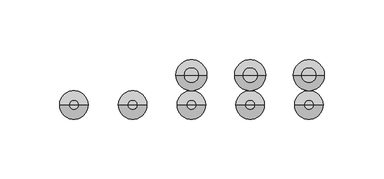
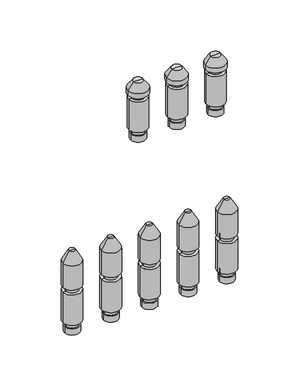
"""IFC4 building model written with IfcOpenShell, lengths in millimetres: valve geometry, PL AT_Manifold_FT-EV : 12 circuits."""

from ifc_helpers import new_model, si_unit, frame, origin, place, context, project, spatial, polyline, circle_curve, source, transform, mapped, element, save
from ifc_brep_helpers import plane_surface, cylinder_surface, revolved_surface, advanced_brep


def valve_a7423dcf(model_context):
    return source(origin(), model_context, "Body", "AdvancedBrep", [
        advanced_brep(
        [(328.1363636, 0.0, -35.11267), (347.1363636, 0.0, -35.11267), (337.6363636, 0.0, -35.11267), (328.1363636, 0.0, -27.0369646), (347.1363636, 0.0, -27.0369646), (329.6363636, 0.0, -27.0369646), (345.6363636, 0.0, -27.0369646), (329.6363636, 0.0, -20.330253), (345.6363636, 0.0, -20.330253), (325.6363636, 0.0, -20.330253), (349.6363636, 0.0, -20.330253), (325.6363636, 0.0, 20.330253), (349.6363636, 0.0, 20.330253), (329.6363636, 0.0, 20.330253), (345.6363636, 0.0, 20.330253), (329.6363636, 0.0, 27.0474786), (345.6363636, 0.0, 27.0474786), (325.6363636, 0.0, 27.0474786), (349.6363636, 0.0, 27.0474786), (325.6363636, 0.0, 59.4084325), (349.6363636, 0.0, 59.4084325), (333.6363636, 0.0, 73.264839), (341.6363636, 0.0, 73.264839), (337.6363636, 0.0, 73.264839)],
        [
            (0, 1, circle_curve(frame((337.6363636, 0.0, -35.11267), z_axis=(0.0, 0.0, -1.0), x_axis=(1.0, 0.0, 0.0)), 9.5)),
            (1, 2),
            (2, 0),
            (1, 0, circle_curve(frame((337.6363636, 0.0, -35.11267), z_axis=(0.0, 0.0, -1.0), x_axis=(1.0, 0.0, 0.0)), 9.5)),
            (3, 4, circle_curve(frame((337.6363636, 0.0, -27.0369646), z_axis=(0.0, 0.0, -1.0), x_axis=(1.0, 0.0, 0.0)), 9.5)),
            (4, 1),
            (0, 3),
            (4, 3, circle_curve(frame((337.6363636, 0.0, -27.0369646), z_axis=(0.0, 0.0, -1.0), x_axis=(1.0, 0.0, 0.0)), 9.5)),
            (5, 6, circle_curve(frame((337.6363636, 0.0, -27.0369646), z_axis=(0.0, 0.0, -1.0), x_axis=(1.0, 0.0, 0.0)), 8.0)),
            (6, 4),
            (3, 5),
            (6, 5, circle_curve(frame((337.6363636, 0.0, -27.0369646), z_axis=(0.0, 0.0, -1.0), x_axis=(1.0, 0.0, 0.0)), 8.0)),
            (7, 8, circle_curve(frame((337.6363636, 0.0, -20.330253), z_axis=(0.0, 0.0, -1.0), x_axis=(1.0, 0.0, 0.0)), 8.0)),
            (8, 6),
            (5, 7),
            (8, 7, circle_curve(frame((337.6363636, 0.0, -20.330253), z_axis=(0.0, 0.0, -1.0), x_axis=(1.0, 0.0, 0.0)), 8.0)),
            (9, 10, circle_curve(frame((337.6363636, 0.0, -20.330253), z_axis=(0.0, 0.0, -1.0), x_axis=(1.0, 0.0, 0.0)), 12.0)),
            (10, 8),
            (7, 9),
            (10, 9, circle_curve(frame((337.6363636, 0.0, -20.330253), z_axis=(0.0, 0.0, -1.0), x_axis=(1.0, 0.0, 0.0)), 12.0)),
            (11, 12, circle_curve(frame((337.6363636, 0.0, 20.330253), z_axis=(0.0, 0.0, -1.0), x_axis=(1.0, 0.0, 0.0)), 12.0)),
            (12, 10),
            (9, 11),
            (12, 11, circle_curve(frame((337.6363636, 0.0, 20.330253), z_axis=(0.0, 0.0, -1.0), x_axis=(1.0, 0.0, 0.0)), 12.0)),
            (13, 14, circle_curve(frame((337.6363636, 0.0, 20.330253), z_axis=(0.0, 0.0, -1.0), x_axis=(1.0, 0.0, 0.0)), 8.0)),
            (14, 12),
            (11, 13),
            (14, 13, circle_curve(frame((337.6363636, 0.0, 20.330253), z_axis=(0.0, 0.0, -1.0), x_axis=(1.0, 0.0, 0.0)), 8.0)),
            (15, 16, circle_curve(frame((337.6363636, 0.0, 27.0474786), z_axis=(0.0, 0.0, -1.0), x_axis=(1.0, 0.0, 0.0)), 8.0)),
            (16, 14),
            (13, 15),
            (16, 15, circle_curve(frame((337.6363636, 0.0, 27.0474786), z_axis=(0.0, 0.0, -1.0), x_axis=(1.0, 0.0, 0.0)), 8.0)),
            (17, 18, circle_curve(frame((337.6363636, 0.0, 27.0474786), z_axis=(0.0, 0.0, -1.0), x_axis=(1.0, 0.0, 0.0)), 12.0)),
            (18, 16),
            (15, 17),
            (18, 17, circle_curve(frame((337.6363636, 0.0, 27.0474786), z_axis=(0.0, 0.0, -1.0), x_axis=(1.0, 0.0, 0.0)), 12.0)),
            (19, 20, circle_curve(frame((337.6363636, 0.0, 59.4084325), z_axis=(0.0, 0.0, -1.0), x_axis=(1.0, 0.0, 0.0)), 12.0)),
            (20, 18),
            (17, 19),
            (20, 19, circle_curve(frame((337.6363636, 0.0, 59.4084325), z_axis=(0.0, 0.0, -1.0), x_axis=(1.0, 0.0, 0.0)), 12.0)),
            (21, 22, circle_curve(frame((337.6363636, 0.0, 73.264839), z_axis=(0.0, 0.0, -1.0), x_axis=(1.0, 0.0, 0.0)), 4.0)),
            (22, 20),
            (19, 21),
            (22, 21, circle_curve(frame((337.6363636, 0.0, 73.264839), z_axis=(0.0, 0.0, -1.0), x_axis=(1.0, 0.0, 0.0)), 4.0)),
            (23, 22),
            (21, 23),
        ],
        [
            plane_surface(frame((337.6363636, 0.0, -35.11267), z_axis=(0.0, 0.0, -1.0), x_axis=(1.0, 0.0, 0.0))),
            cylinder_surface(frame((337.6363636, 0.0, 58.264839), z_axis=(0.0, 0.0, 1.0), x_axis=(1.0, 0.0, 0.0)), 9.5),
            plane_surface(frame((337.6363636, 0.0, -27.0369646), z_axis=(0.0, 0.0, 1.0), x_axis=(1.0, 0.0, 0.0))),
            cylinder_surface(frame((337.6363636, 0.0, 58.264839), z_axis=(0.0, 0.0, 1.0), x_axis=(1.0, 0.0, 0.0)), 8.0),
            plane_surface(frame((337.6363636, 0.0, -20.330253), z_axis=(0.0, 0.0, -1.0), x_axis=(1.0, 0.0, 0.0))),
            cylinder_surface(frame((337.6363636, 0.0, 58.264839), z_axis=(0.0, 0.0, 1.0), x_axis=(1.0, 0.0, 0.0)), 12.0),
            plane_surface(frame((337.6363636, 0.0, 20.330253), z_axis=(0.0, 0.0, 1.0), x_axis=(1.0, 0.0, 0.0))),
            plane_surface(frame((337.6363636, 0.0, 27.0474786), z_axis=(0.0, 0.0, -1.0), x_axis=(1.0, 0.0, 0.0))),
            revolved_surface(polyline([(349.6363636, 0.0, 59.4084325), (341.6363636, 0.0, 73.264839)]), (337.6363636, 0.0, 58.264839), (0.0, 0.0, 1.0)),
            plane_surface(frame((337.6363636, 0.0, 73.264839), z_axis=(0.0, 0.0, 1.0), x_axis=(1.0, 0.0, 0.0))),
        ],
        [
            (0, [[1, 2, 3]]),
            (0, [[4, -3, -2]]),
            (1, [[5, 6, -1, 7]]),
            (1, [[8, -7, -4, -6]]),
            (2, [[9, 10, -5, 11]]),
            (2, [[12, -11, -8, -10]]),
            (3, [[13, 14, -9, 15]]),
            (3, [[16, -15, -12, -14]]),
            (4, [[17, 18, -13, 19]]),
            (4, [[20, -19, -16, -18]]),
            (5, [[21, 22, -17, 23]]),
            (5, [[24, -23, -20, -22]]),
            (6, [[25, 26, -21, 27]]),
            (6, [[28, -27, -24, -26]]),
            (3, [[29, 30, -25, 31]]),
            (3, [[32, -31, -28, -30]]),
            (7, [[33, 34, -29, 35]]),
            (7, [[36, -35, -32, -34]]),
            (5, [[37, 38, -33, 39]]),
            (5, [[40, -39, -36, -38]]),
            (8, [[41, 42, -37, 43]]),
            (8, [[44, -43, -40, -42]]),
            (9, [[45, -41, 46]]),
            (9, [[-46, -44, -45]]),
        ],
    ),
        advanced_brep(
        [(328.1363636, 25.0, 174.88733), (347.1363636, 25.0, 174.88733), (337.6363636, 25.0, 174.88733), (328.1363636, 25.0, 182.9630354), (347.1363636, 25.0, 182.9630354), (329.6363636, 25.0, 182.9630354), (345.6363636, 25.0, 182.9630354), (329.6363636, 25.0, 189.669747), (345.6363636, 25.0, 189.669747), (325.6363636, 25.0, 189.669747), (349.6363636, 25.0, 189.669747), (325.6363636, 25.0, 230.330253), (349.6363636, 25.0, 230.330253), (329.6363636, 25.0, 230.330253), (345.6363636, 25.0, 230.330253), (329.6363636, 25.0, 236.0474786), (345.6363636, 25.0, 236.0474786), (324.6363636, 25.0, 236.0474786), (350.6363636, 25.0, 236.0474786), (324.6363636, 25.0, 242.337955), (350.6363636, 25.0, 242.337955), (331.2915415, 25.0, 251.842534), (343.9811858, 25.0, 251.842534), (337.6363636, 25.0, 251.842534)],
        [
            (0, 1, circle_curve(frame((337.6363636, 25.0, 174.88733), z_axis=(0.0, 0.0, -1.0), x_axis=(1.0, 0.0, 0.0)), 9.5)),
            (1, 2),
            (2, 0),
            (1, 0, circle_curve(frame((337.6363636, 25.0, 174.88733), z_axis=(0.0, 0.0, -1.0), x_axis=(1.0, 0.0, 0.0)), 9.5)),
            (3, 4, circle_curve(frame((337.6363636, 25.0, 182.9630354), z_axis=(0.0, 0.0, -1.0), x_axis=(1.0, 0.0, 0.0)), 9.5)),
            (4, 1),
            (0, 3),
            (4, 3, circle_curve(frame((337.6363636, 25.0, 182.9630354), z_axis=(0.0, 0.0, -1.0), x_axis=(1.0, 0.0, 0.0)), 9.5)),
            (5, 6, circle_curve(frame((337.6363636, 25.0, 182.9630354), z_axis=(0.0, 0.0, -1.0), x_axis=(1.0, 0.0, 0.0)), 8.0)),
            (6, 4),
            (3, 5),
            (6, 5, circle_curve(frame((337.6363636, 25.0, 182.9630354), z_axis=(0.0, 0.0, -1.0), x_axis=(1.0, 0.0, 0.0)), 8.0)),
            (7, 8, circle_curve(frame((337.6363636, 25.0, 189.669747), z_axis=(0.0, 0.0, -1.0), x_axis=(1.0, 0.0, 0.0)), 8.0)),
            (8, 6),
            (5, 7),
            (8, 7, circle_curve(frame((337.6363636, 25.0, 189.669747), z_axis=(0.0, 0.0, -1.0), x_axis=(1.0, 0.0, 0.0)), 8.0)),
            (9, 10, circle_curve(frame((337.6363636, 25.0, 189.669747), z_axis=(0.0, 0.0, -1.0), x_axis=(1.0, 0.0, 0.0)), 12.0)),
            (10, 8),
            (7, 9),
            (10, 9, circle_curve(frame((337.6363636, 25.0, 189.669747), z_axis=(0.0, 0.0, -1.0), x_axis=(1.0, 0.0, 0.0)), 12.0)),
            (11, 12, circle_curve(frame((337.6363636, 25.0, 230.330253), z_axis=(0.0, 0.0, -1.0), x_axis=(1.0, 0.0, 0.0)), 12.0)),
            (12, 10),
            (9, 11),
            (12, 11, circle_curve(frame((337.6363636, 25.0, 230.330253), z_axis=(0.0, 0.0, -1.0), x_axis=(1.0, 0.0, 0.0)), 12.0)),
            (13, 14, circle_curve(frame((337.6363636, 25.0, 230.330253), z_axis=(0.0, 0.0, -1.0), x_axis=(1.0, 0.0, 0.0)), 8.0)),
            (14, 12),
            (11, 13),
            (14, 13, circle_curve(frame((337.6363636, 25.0, 230.330253), z_axis=(0.0, 0.0, -1.0), x_axis=(1.0, 0.0, 0.0)), 8.0)),
            (15, 16, circle_curve(frame((337.6363636, 25.0, 236.0474786), z_axis=(0.0, 0.0, -1.0), x_axis=(1.0, 0.0, 0.0)), 8.0)),
            (16, 14),
            (13, 15),
            (16, 15, circle_curve(frame((337.6363636, 25.0, 236.0474786), z_axis=(0.0, 0.0, -1.0), x_axis=(1.0, 0.0, 0.0)), 8.0)),
            (17, 18, circle_curve(frame((337.6363636, 25.0, 236.0474786), z_axis=(0.0, 0.0, -1.0), x_axis=(1.0, 0.0, 0.0)), 13.0)),
            (18, 16),
            (15, 17),
            (18, 17, circle_curve(frame((337.6363636, 25.0, 236.0474786), z_axis=(0.0, 0.0, -1.0), x_axis=(1.0, 0.0, 0.0)), 13.0)),
            (19, 20, circle_curve(frame((337.6363636, 25.0, 242.337955), z_axis=(0.0, 0.0, -1.0), x_axis=(1.0, 0.0, 0.0)), 13.0)),
            (20, 18),
            (17, 19),
            (20, 19, circle_curve(frame((337.6363636, 25.0, 242.337955), z_axis=(0.0, 0.0, -1.0), x_axis=(1.0, 0.0, 0.0)), 13.0)),
            (21, 22, circle_curve(frame((337.6363636, 25.0, 251.842534), z_axis=(0.0, 0.0, -1.0), x_axis=(1.0, 0.0, 0.0)), 6.3448221)),
            (22, 20),
            (19, 21),
            (22, 21, circle_curve(frame((337.6363636, 25.0, 251.842534), z_axis=(0.0, 0.0, -1.0), x_axis=(1.0, 0.0, 0.0)), 6.3448221)),
            (23, 22),
            (21, 23),
        ],
        [
            plane_surface(frame((337.6363636, 25.0, 174.88733), z_axis=(0.0, 0.0, -1.0), x_axis=(1.0, 0.0, 0.0))),
            cylinder_surface(frame((337.6363636, 25.0, 247.7026565), z_axis=(0.0, 0.0, 1.0), x_axis=(1.0, 0.0, 0.0)), 9.5),
            plane_surface(frame((337.6363636, 25.0, 182.9630354), z_axis=(0.0, 0.0, 1.0), x_axis=(1.0, 0.0, 0.0))),
            cylinder_surface(frame((337.6363636, 25.0, 247.7026565), z_axis=(0.0, 0.0, 1.0), x_axis=(1.0, 0.0, 0.0)), 8.0),
            plane_surface(frame((337.6363636, 25.0, 189.669747), z_axis=(0.0, 0.0, -1.0), x_axis=(1.0, 0.0, 0.0))),
            cylinder_surface(frame((337.6363636, 25.0, 247.7026565), z_axis=(0.0, 0.0, 1.0), x_axis=(1.0, 0.0, 0.0)), 12.0),
            plane_surface(frame((337.6363636, 25.0, 230.330253), z_axis=(0.0, 0.0, 1.0), x_axis=(1.0, 0.0, 0.0))),
            plane_surface(frame((337.6363636, 25.0, 236.0474786), z_axis=(0.0, 0.0, -1.0), x_axis=(1.0, 0.0, 0.0))),
            cylinder_surface(frame((337.6363636, 25.0, 247.7026565), z_axis=(0.0, 0.0, 1.0), x_axis=(1.0, 0.0, 0.0)), 13.0),
            revolved_surface(polyline([(350.6363636, 25.0, 242.337955), (343.9811858, 25.0, 251.842534)]), (337.6363636, 25.0, 247.7026565), (0.0, 0.0, 1.0)),
            plane_surface(frame((337.6363636, 25.0, 251.842534), z_axis=(0.0, 0.0, 1.0), x_axis=(1.0, 0.0, 0.0))),
        ],
        [
            (0, [[1, 2, 3]]),
            (0, [[4, -3, -2]]),
            (1, [[5, 6, -1, 7]]),
            (1, [[8, -7, -4, -6]]),
            (2, [[9, 10, -5, 11]]),
            (2, [[12, -11, -8, -10]]),
            (3, [[13, 14, -9, 15]]),
            (3, [[16, -15, -12, -14]]),
            (4, [[17, 18, -13, 19]]),
            (4, [[20, -19, -16, -18]]),
            (5, [[21, 22, -17, 23]]),
            (5, [[24, -23, -20, -22]]),
            (6, [[25, 26, -21, 27]]),
            (6, [[28, -27, -24, -26]]),
            (3, [[29, 30, -25, 31]]),
            (3, [[32, -31, -28, -30]]),
            (7, [[33, 34, -29, 35]]),
            (7, [[36, -35, -32, -34]]),
            (8, [[37, 38, -33, 39]]),
            (8, [[40, -39, -36, -38]]),
            (9, [[41, 42, -37, 43]]),
            (9, [[44, -43, -40, -42]]),
            (10, [[45, -41, 46]]),
            (10, [[-46, -44, -45]]),
        ],
    ),
        advanced_brep(
        [(278.8636364, 0.0, -35.11267), (297.8636364, 0.0, -35.11267), (288.3636364, 0.0, -35.11267), (278.8636364, 0.0, -27.0369646), (297.8636364, 0.0, -27.0369646), (280.3636364, 0.0, -27.0369646), (296.3636364, 0.0, -27.0369646), (280.3636364, 0.0, -20.330253), (296.3636364, 0.0, -20.330253), (276.3636364, 0.0, -20.330253), (300.3636364, 0.0, -20.330253), (276.3636364, 0.0, 20.330253), (300.3636364, 0.0, 20.330253), (280.3636364, 0.0, 20.330253), (296.3636364, 0.0, 20.330253), (280.3636364, 0.0, 27.0474786), (296.3636364, 0.0, 27.0474786), (276.3636364, 0.0, 27.0474786), (300.3636364, 0.0, 27.0474786), (276.3636364, 0.0, 59.4084325), (300.3636364, 0.0, 59.4084325), (284.3636364, 0.0, 73.264839), (292.3636364, 0.0, 73.264839), (288.3636364, 0.0, 73.264839)],
        [
            (0, 1, circle_curve(frame((288.3636364, 0.0, -35.11267), z_axis=(0.0, 0.0, -1.0), x_axis=(1.0, 0.0, 0.0)), 9.5)),
            (1, 2),
            (2, 0),
            (1, 0, circle_curve(frame((288.3636364, 0.0, -35.11267), z_axis=(0.0, 0.0, -1.0), x_axis=(1.0, 0.0, 0.0)), 9.5)),
            (3, 4, circle_curve(frame((288.3636364, 0.0, -27.0369646), z_axis=(0.0, 0.0, -1.0), x_axis=(1.0, 0.0, 0.0)), 9.5)),
            (4, 1),
            (0, 3),
            (4, 3, circle_curve(frame((288.3636364, 0.0, -27.0369646), z_axis=(0.0, 0.0, -1.0), x_axis=(1.0, 0.0, 0.0)), 9.5)),
            (5, 6, circle_curve(frame((288.3636364, 0.0, -27.0369646), z_axis=(0.0, 0.0, -1.0), x_axis=(1.0, 0.0, 0.0)), 8.0)),
            (6, 4),
            (3, 5),
            (6, 5, circle_curve(frame((288.3636364, 0.0, -27.0369646), z_axis=(0.0, 0.0, -1.0), x_axis=(1.0, 0.0, 0.0)), 8.0)),
            (7, 8, circle_curve(frame((288.3636364, 0.0, -20.330253), z_axis=(0.0, 0.0, -1.0), x_axis=(1.0, 0.0, 0.0)), 8.0)),
            (8, 6),
            (5, 7),
            (8, 7, circle_curve(frame((288.3636364, 0.0, -20.330253), z_axis=(0.0, 0.0, -1.0), x_axis=(1.0, 0.0, 0.0)), 8.0)),
            (9, 10, circle_curve(frame((288.3636364, 0.0, -20.330253), z_axis=(0.0, 0.0, -1.0), x_axis=(1.0, 0.0, 0.0)), 12.0)),
            (10, 8),
            (7, 9),
            (10, 9, circle_curve(frame((288.3636364, 0.0, -20.330253), z_axis=(0.0, 0.0, -1.0), x_axis=(1.0, 0.0, 0.0)), 12.0)),
            (11, 12, circle_curve(frame((288.3636364, 0.0, 20.330253), z_axis=(0.0, 0.0, -1.0), x_axis=(1.0, 0.0, 0.0)), 12.0)),
            (12, 10),
            (9, 11),
            (12, 11, circle_curve(frame((288.3636364, 0.0, 20.330253), z_axis=(0.0, 0.0, -1.0), x_axis=(1.0, 0.0, 0.0)), 12.0)),
            (13, 14, circle_curve(frame((288.3636364, 0.0, 20.330253), z_axis=(0.0, 0.0, -1.0), x_axis=(1.0, 0.0, 0.0)), 8.0)),
            (14, 12),
            (11, 13),
            (14, 13, circle_curve(frame((288.3636364, 0.0, 20.330253), z_axis=(0.0, 0.0, -1.0), x_axis=(1.0, 0.0, 0.0)), 8.0)),
            (15, 16, circle_curve(frame((288.3636364, 0.0, 27.0474786), z_axis=(0.0, 0.0, -1.0), x_axis=(1.0, 0.0, 0.0)), 8.0)),
            (16, 14),
            (13, 15),
            (16, 15, circle_curve(frame((288.3636364, 0.0, 27.0474786), z_axis=(0.0, 0.0, -1.0), x_axis=(1.0, 0.0, 0.0)), 8.0)),
            (17, 18, circle_curve(frame((288.3636364, 0.0, 27.0474786), z_axis=(0.0, 0.0, -1.0), x_axis=(1.0, 0.0, 0.0)), 12.0)),
            (18, 16),
            (15, 17),
            (18, 17, circle_curve(frame((288.3636364, 0.0, 27.0474786), z_axis=(0.0, 0.0, -1.0), x_axis=(1.0, 0.0, 0.0)), 12.0)),
            (19, 20, circle_curve(frame((288.3636364, 0.0, 59.4084325), z_axis=(0.0, 0.0, -1.0), x_axis=(1.0, 0.0, 0.0)), 12.0)),
            (20, 18),
            (17, 19),
            (20, 19, circle_curve(frame((288.3636364, 0.0, 59.4084325), z_axis=(0.0, 0.0, -1.0), x_axis=(1.0, 0.0, 0.0)), 12.0)),
            (21, 22, circle_curve(frame((288.3636364, 0.0, 73.264839), z_axis=(0.0, 0.0, -1.0), x_axis=(1.0, 0.0, 0.0)), 4.0)),
            (22, 20),
            (19, 21),
            (22, 21, circle_curve(frame((288.3636364, 0.0, 73.264839), z_axis=(0.0, 0.0, -1.0), x_axis=(1.0, 0.0, 0.0)), 4.0)),
            (23, 22),
            (21, 23),
        ],
        [
            plane_surface(frame((288.3636364, 0.0, -35.11267), z_axis=(0.0, 0.0, -1.0), x_axis=(1.0, 0.0, 0.0))),
            cylinder_surface(frame((288.3636364, 0.0, 58.264839), z_axis=(0.0, 0.0, 1.0), x_axis=(1.0, 0.0, 0.0)), 9.5),
            plane_surface(frame((288.3636364, 0.0, -27.0369646), z_axis=(0.0, 0.0, 1.0), x_axis=(1.0, 0.0, 0.0))),
            cylinder_surface(frame((288.3636364, 0.0, 58.264839), z_axis=(0.0, 0.0, 1.0), x_axis=(1.0, 0.0, 0.0)), 8.0),
            plane_surface(frame((288.3636364, 0.0, -20.330253), z_axis=(0.0, 0.0, -1.0), x_axis=(1.0, 0.0, 0.0))),
            cylinder_surface(frame((288.3636364, 0.0, 58.264839), z_axis=(0.0, 0.0, 1.0), x_axis=(1.0, 0.0, 0.0)), 12.0),
            plane_surface(frame((288.3636364, 0.0, 20.330253), z_axis=(0.0, 0.0, 1.0), x_axis=(1.0, 0.0, 0.0))),
            plane_surface(frame((288.3636364, 0.0, 27.0474786), z_axis=(0.0, 0.0, -1.0), x_axis=(1.0, 0.0, 0.0))),
            revolved_surface(polyline([(300.3636364, 0.0, 59.4084325), (292.3636364, 0.0, 73.264839)]), (288.3636364, 0.0, 58.264839), (0.0, 0.0, 1.0)),
            plane_surface(frame((288.3636364, 0.0, 73.264839), z_axis=(0.0, 0.0, 1.0), x_axis=(1.0, 0.0, 0.0))),
        ],
        [
            (0, [[1, 2, 3]]),
            (0, [[4, -3, -2]]),
            (1, [[5, 6, -1, 7]]),
            (1, [[8, -7, -4, -6]]),
            (2, [[9, 10, -5, 11]]),
            (2, [[12, -11, -8, -10]]),
            (3, [[13, 14, -9, 15]]),
            (3, [[16, -15, -12, -14]]),
            (4, [[17, 18, -13, 19]]),
            (4, [[20, -19, -16, -18]]),
            (5, [[21, 22, -17, 23]]),
            (5, [[24, -23, -20, -22]]),
            (6, [[25, 26, -21, 27]]),
            (6, [[28, -27, -24, -26]]),
            (3, [[29, 30, -25, 31]]),
            (3, [[32, -31, -28, -30]]),
            (7, [[33, 34, -29, 35]]),
            (7, [[36, -35, -32, -34]]),
            (5, [[37, 38, -33, 39]]),
            (5, [[40, -39, -36, -38]]),
            (8, [[41, 42, -37, 43]]),
            (8, [[44, -43, -40, -42]]),
            (9, [[45, -41, 46]]),
            (9, [[-46, -44, -45]]),
        ],
    ),
        advanced_brep(
        [(229.5909091, 0.0, -35.11267), (248.5909091, 0.0, -35.11267), (239.0909091, 0.0, -35.11267), (229.5909091, 0.0, -27.0369646), (248.5909091, 0.0, -27.0369646), (231.0909091, 0.0, -27.0369646), (247.0909091, 0.0, -27.0369646), (231.0909091, 0.0, -20.330253), (247.0909091, 0.0, -20.330253), (227.0909091, 0.0, -20.330253), (251.0909091, 0.0, -20.330253), (227.0909091, 0.0, 20.330253), (251.0909091, 0.0, 20.330253), (231.0909091, 0.0, 20.330253), (247.0909091, 0.0, 20.330253), (231.0909091, 0.0, 27.0474786), (247.0909091, 0.0, 27.0474786), (227.0909091, 0.0, 27.0474786), (251.0909091, 0.0, 27.0474786), (227.0909091, 0.0, 59.4084325), (251.0909091, 0.0, 59.4084325), (235.0909091, 0.0, 73.264839), (243.0909091, 0.0, 73.264839), (239.0909091, 0.0, 73.264839)],
        [
            (0, 1, circle_curve(frame((239.0909091, 0.0, -35.11267), z_axis=(0.0, 0.0, -1.0), x_axis=(1.0, 0.0, 0.0)), 9.5)),
            (1, 2),
            (2, 0),
            (1, 0, circle_curve(frame((239.0909091, 0.0, -35.11267), z_axis=(0.0, 0.0, -1.0), x_axis=(1.0, 0.0, 0.0)), 9.5)),
            (3, 4, circle_curve(frame((239.0909091, 0.0, -27.0369646), z_axis=(0.0, 0.0, -1.0), x_axis=(1.0, 0.0, 0.0)), 9.5)),
            (4, 1),
            (0, 3),
            (4, 3, circle_curve(frame((239.0909091, 0.0, -27.0369646), z_axis=(0.0, 0.0, -1.0), x_axis=(1.0, 0.0, 0.0)), 9.5)),
            (5, 6, circle_curve(frame((239.0909091, 0.0, -27.0369646), z_axis=(0.0, 0.0, -1.0), x_axis=(1.0, 0.0, 0.0)), 8.0)),
            (6, 4),
            (3, 5),
            (6, 5, circle_curve(frame((239.0909091, 0.0, -27.0369646), z_axis=(0.0, 0.0, -1.0), x_axis=(1.0, 0.0, 0.0)), 8.0)),
            (7, 8, circle_curve(frame((239.0909091, 0.0, -20.330253), z_axis=(0.0, 0.0, -1.0), x_axis=(1.0, 0.0, 0.0)), 8.0)),
            (8, 6),
            (5, 7),
            (8, 7, circle_curve(frame((239.0909091, 0.0, -20.330253), z_axis=(0.0, 0.0, -1.0), x_axis=(1.0, 0.0, 0.0)), 8.0)),
            (9, 10, circle_curve(frame((239.0909091, 0.0, -20.330253), z_axis=(0.0, 0.0, -1.0), x_axis=(1.0, 0.0, 0.0)), 12.0)),
            (10, 8),
            (7, 9),
            (10, 9, circle_curve(frame((239.0909091, 0.0, -20.330253), z_axis=(0.0, 0.0, -1.0), x_axis=(1.0, 0.0, 0.0)), 12.0)),
            (11, 12, circle_curve(frame((239.0909091, 0.0, 20.330253), z_axis=(0.0, 0.0, -1.0), x_axis=(1.0, 0.0, 0.0)), 12.0)),
            (12, 10),
            (9, 11),
            (12, 11, circle_curve(frame((239.0909091, 0.0, 20.330253), z_axis=(0.0, 0.0, -1.0), x_axis=(1.0, 0.0, 0.0)), 12.0)),
            (13, 14, circle_curve(frame((239.0909091, 0.0, 20.330253), z_axis=(0.0, 0.0, -1.0), x_axis=(1.0, 0.0, 0.0)), 8.0)),
            (14, 12),
            (11, 13),
            (14, 13, circle_curve(frame((239.0909091, 0.0, 20.330253), z_axis=(0.0, 0.0, -1.0), x_axis=(1.0, 0.0, 0.0)), 8.0)),
            (15, 16, circle_curve(frame((239.0909091, 0.0, 27.0474786), z_axis=(0.0, 0.0, -1.0), x_axis=(1.0, 0.0, 0.0)), 8.0)),
            (16, 14),
            (13, 15),
            (16, 15, circle_curve(frame((239.0909091, 0.0, 27.0474786), z_axis=(0.0, 0.0, -1.0), x_axis=(1.0, 0.0, 0.0)), 8.0)),
            (17, 18, circle_curve(frame((239.0909091, 0.0, 27.0474786), z_axis=(0.0, 0.0, -1.0), x_axis=(1.0, 0.0, 0.0)), 12.0)),
            (18, 16),
            (15, 17),
            (18, 17, circle_curve(frame((239.0909091, 0.0, 27.0474786), z_axis=(0.0, 0.0, -1.0), x_axis=(1.0, 0.0, 0.0)), 12.0)),
            (19, 20, circle_curve(frame((239.0909091, 0.0, 59.4084325), z_axis=(0.0, 0.0, -1.0), x_axis=(1.0, 0.0, 0.0)), 12.0)),
            (20, 18),
            (17, 19),
            (20, 19, circle_curve(frame((239.0909091, 0.0, 59.4084325), z_axis=(0.0, 0.0, -1.0), x_axis=(1.0, 0.0, 0.0)), 12.0)),
            (21, 22, circle_curve(frame((239.0909091, 0.0, 73.264839), z_axis=(0.0, 0.0, -1.0), x_axis=(1.0, 0.0, 0.0)), 4.0)),
            (22, 20),
            (19, 21),
            (22, 21, circle_curve(frame((239.0909091, 0.0, 73.264839), z_axis=(0.0, 0.0, -1.0), x_axis=(1.0, 0.0, 0.0)), 4.0)),
            (23, 22),
            (21, 23),
        ],
        [
            plane_surface(frame((239.0909091, 0.0, -35.11267), z_axis=(0.0, 0.0, -1.0), x_axis=(1.0, 0.0, 0.0))),
            cylinder_surface(frame((239.0909091, 0.0, 58.264839), z_axis=(0.0, 0.0, 1.0), x_axis=(1.0, 0.0, 0.0)), 9.5),
            plane_surface(frame((239.0909091, 0.0, -27.0369646), z_axis=(0.0, 0.0, 1.0), x_axis=(1.0, 0.0, 0.0))),
            cylinder_surface(frame((239.0909091, 0.0, 58.264839), z_axis=(0.0, 0.0, 1.0), x_axis=(1.0, 0.0, 0.0)), 8.0),
            plane_surface(frame((239.0909091, 0.0, -20.330253), z_axis=(0.0, 0.0, -1.0), x_axis=(1.0, 0.0, 0.0))),
            cylinder_surface(frame((239.0909091, 0.0, 58.264839), z_axis=(0.0, 0.0, 1.0), x_axis=(1.0, 0.0, 0.0)), 12.0),
            plane_surface(frame((239.0909091, 0.0, 20.330253), z_axis=(0.0, 0.0, 1.0), x_axis=(1.0, 0.0, 0.0))),
            plane_surface(frame((239.0909091, 0.0, 27.0474786), z_axis=(0.0, 0.0, -1.0), x_axis=(1.0, 0.0, 0.0))),
            revolved_surface(polyline([(251.0909091, 0.0, 59.4084325), (243.0909091, 0.0, 73.264839)]), (239.0909091, 0.0, 58.264839), (0.0, 0.0, 1.0)),
            plane_surface(frame((239.0909091, 0.0, 73.264839), z_axis=(0.0, 0.0, 1.0), x_axis=(1.0, 0.0, 0.0))),
        ],
        [
            (0, [[1, 2, 3]]),
            (0, [[4, -3, -2]]),
            (1, [[5, 6, -1, 7]]),
            (1, [[8, -7, -4, -6]]),
            (2, [[9, 10, -5, 11]]),
            (2, [[12, -11, -8, -10]]),
            (3, [[13, 14, -9, 15]]),
            (3, [[16, -15, -12, -14]]),
            (4, [[17, 18, -13, 19]]),
            (4, [[20, -19, -16, -18]]),
            (5, [[21, 22, -17, 23]]),
            (5, [[24, -23, -20, -22]]),
            (6, [[25, 26, -21, 27]]),
            (6, [[28, -27, -24, -26]]),
            (3, [[29, 30, -25, 31]]),
            (3, [[32, -31, -28, -30]]),
            (7, [[33, 34, -29, 35]]),
            (7, [[36, -35, -32, -34]]),
            (5, [[37, 38, -33, 39]]),
            (5, [[40, -39, -36, -38]]),
            (8, [[41, 42, -37, 43]]),
            (8, [[44, -43, -40, -42]]),
            (9, [[45, -41, 46]]),
            (9, [[-46, -44, -45]]),
        ],
    ),
        advanced_brep(
        [(180.3181818, 0.0, -35.11267), (199.3181818, 0.0, -35.11267), (189.8181818, 0.0, -35.11267), (180.3181818, 0.0, -27.0369646), (199.3181818, 0.0, -27.0369646), (181.8181818, 0.0, -27.0369646), (197.8181818, 0.0, -27.0369646), (181.8181818, 0.0, -20.330253), (197.8181818, 0.0, -20.330253), (177.8181818, 0.0, -20.330253), (201.8181818, 0.0, -20.330253), (177.8181818, 0.0, 20.330253), (201.8181818, 0.0, 20.330253), (181.8181818, 0.0, 20.330253), (197.8181818, 0.0, 20.330253), (181.8181818, 0.0, 27.0474786), (197.8181818, 0.0, 27.0474786), (177.8181818, 0.0, 27.0474786), (201.8181818, 0.0, 27.0474786), (177.8181818, 0.0, 59.4084325), (201.8181818, 0.0, 59.4084325), (185.8181818, 0.0, 73.264839), (193.8181818, 0.0, 73.264839), (189.8181818, 0.0, 73.264839)],
        [
            (0, 1, circle_curve(frame((189.8181818, 0.0, -35.11267), z_axis=(0.0, 0.0, -1.0), x_axis=(1.0, 0.0, 0.0)), 9.5)),
            (1, 2),
            (2, 0),
            (1, 0, circle_curve(frame((189.8181818, 0.0, -35.11267), z_axis=(0.0, 0.0, -1.0), x_axis=(1.0, 0.0, 0.0)), 9.5)),
            (3, 4, circle_curve(frame((189.8181818, 0.0, -27.0369646), z_axis=(0.0, 0.0, -1.0), x_axis=(1.0, 0.0, 0.0)), 9.5)),
            (4, 1),
            (0, 3),
            (4, 3, circle_curve(frame((189.8181818, 0.0, -27.0369646), z_axis=(0.0, 0.0, -1.0), x_axis=(1.0, 0.0, 0.0)), 9.5)),
            (5, 6, circle_curve(frame((189.8181818, 0.0, -27.0369646), z_axis=(0.0, 0.0, -1.0), x_axis=(1.0, 0.0, 0.0)), 8.0)),
            (6, 4),
            (3, 5),
            (6, 5, circle_curve(frame((189.8181818, 0.0, -27.0369646), z_axis=(0.0, 0.0, -1.0), x_axis=(1.0, 0.0, 0.0)), 8.0)),
            (7, 8, circle_curve(frame((189.8181818, 0.0, -20.330253), z_axis=(0.0, 0.0, -1.0), x_axis=(1.0, 0.0, 0.0)), 8.0)),
            (8, 6),
            (5, 7),
            (8, 7, circle_curve(frame((189.8181818, 0.0, -20.330253), z_axis=(0.0, 0.0, -1.0), x_axis=(1.0, 0.0, 0.0)), 8.0)),
            (9, 10, circle_curve(frame((189.8181818, 0.0, -20.330253), z_axis=(0.0, 0.0, -1.0), x_axis=(1.0, 0.0, 0.0)), 12.0)),
            (10, 8),
            (7, 9),
            (10, 9, circle_curve(frame((189.8181818, 0.0, -20.330253), z_axis=(0.0, 0.0, -1.0), x_axis=(1.0, 0.0, 0.0)), 12.0)),
            (11, 12, circle_curve(frame((189.8181818, 0.0, 20.330253), z_axis=(0.0, 0.0, -1.0), x_axis=(1.0, 0.0, 0.0)), 12.0)),
            (12, 10),
            (9, 11),
            (12, 11, circle_curve(frame((189.8181818, 0.0, 20.330253), z_axis=(0.0, 0.0, -1.0), x_axis=(1.0, 0.0, 0.0)), 12.0)),
            (13, 14, circle_curve(frame((189.8181818, 0.0, 20.330253), z_axis=(0.0, 0.0, -1.0), x_axis=(1.0, 0.0, 0.0)), 8.0)),
            (14, 12),
            (11, 13),
            (14, 13, circle_curve(frame((189.8181818, 0.0, 20.330253), z_axis=(0.0, 0.0, -1.0), x_axis=(1.0, 0.0, 0.0)), 8.0)),
            (15, 16, circle_curve(frame((189.8181818, 0.0, 27.0474786), z_axis=(0.0, 0.0, -1.0), x_axis=(1.0, 0.0, 0.0)), 8.0)),
            (16, 14),
            (13, 15),
            (16, 15, circle_curve(frame((189.8181818, 0.0, 27.0474786), z_axis=(0.0, 0.0, -1.0), x_axis=(1.0, 0.0, 0.0)), 8.0)),
            (17, 18, circle_curve(frame((189.8181818, 0.0, 27.0474786), z_axis=(0.0, 0.0, -1.0), x_axis=(1.0, 0.0, 0.0)), 12.0)),
            (18, 16),
            (15, 17),
            (18, 17, circle_curve(frame((189.8181818, 0.0, 27.0474786), z_axis=(0.0, 0.0, -1.0), x_axis=(1.0, 0.0, 0.0)), 12.0)),
            (19, 20, circle_curve(frame((189.8181818, 0.0, 59.4084325), z_axis=(0.0, 0.0, -1.0), x_axis=(1.0, 0.0, 0.0)), 12.0)),
            (20, 18),
            (17, 19),
            (20, 19, circle_curve(frame((189.8181818, 0.0, 59.4084325), z_axis=(0.0, 0.0, -1.0), x_axis=(1.0, 0.0, 0.0)), 12.0)),
            (21, 22, circle_curve(frame((189.8181818, 0.0, 73.264839), z_axis=(0.0, 0.0, -1.0), x_axis=(1.0, 0.0, 0.0)), 4.0)),
            (22, 20),
            (19, 21),
            (22, 21, circle_curve(frame((189.8181818, 0.0, 73.264839), z_axis=(0.0, 0.0, -1.0), x_axis=(1.0, 0.0, 0.0)), 4.0)),
            (23, 22),
            (21, 23),
        ],
        [
            plane_surface(frame((189.8181818, 0.0, -35.11267), z_axis=(0.0, 0.0, -1.0), x_axis=(1.0, 0.0, 0.0))),
            cylinder_surface(frame((189.8181818, 0.0, 58.264839), z_axis=(0.0, 0.0, 1.0), x_axis=(1.0, 0.0, 0.0)), 9.5),
            plane_surface(frame((189.8181818, 0.0, -27.0369646), z_axis=(0.0, 0.0, 1.0), x_axis=(1.0, 0.0, 0.0))),
            cylinder_surface(frame((189.8181818, 0.0, 58.264839), z_axis=(0.0, 0.0, 1.0), x_axis=(1.0, 0.0, 0.0)), 8.0),
            plane_surface(frame((189.8181818, 0.0, -20.330253), z_axis=(0.0, 0.0, -1.0), x_axis=(1.0, 0.0, 0.0))),
            cylinder_surface(frame((189.8181818, 0.0, 58.264839), z_axis=(0.0, 0.0, 1.0), x_axis=(1.0, 0.0, 0.0)), 12.0),
            plane_surface(frame((189.8181818, 0.0, 20.330253), z_axis=(0.0, 0.0, 1.0), x_axis=(1.0, 0.0, 0.0))),
            plane_surface(frame((189.8181818, 0.0, 27.0474786), z_axis=(0.0, 0.0, -1.0), x_axis=(1.0, 0.0, 0.0))),
            revolved_surface(polyline([(201.8181818, 0.0, 59.4084325), (193.8181818, 0.0, 73.264839)]), (189.8181818, 0.0, 58.264839), (0.0, 0.0, 1.0)),
            plane_surface(frame((189.8181818, 0.0, 73.264839), z_axis=(0.0, 0.0, 1.0), x_axis=(1.0, 0.0, 0.0))),
        ],
        [
            (0, [[1, 2, 3]]),
            (0, [[4, -3, -2]]),
            (1, [[5, 6, -1, 7]]),
            (1, [[8, -7, -4, -6]]),
            (2, [[9, 10, -5, 11]]),
            (2, [[12, -11, -8, -10]]),
            (3, [[13, 14, -9, 15]]),
            (3, [[16, -15, -12, -14]]),
            (4, [[17, 18, -13, 19]]),
            (4, [[20, -19, -16, -18]]),
            (5, [[21, 22, -17, 23]]),
            (5, [[24, -23, -20, -22]]),
            (6, [[25, 26, -21, 27]]),
            (6, [[28, -27, -24, -26]]),
            (3, [[29, 30, -25, 31]]),
            (3, [[32, -31, -28, -30]]),
            (7, [[33, 34, -29, 35]]),
            (7, [[36, -35, -32, -34]]),
            (5, [[37, 38, -33, 39]]),
            (5, [[40, -39, -36, -38]]),
            (8, [[41, 42, -37, 43]]),
            (8, [[44, -43, -40, -42]]),
            (9, [[45, -41, 46]]),
            (9, [[-46, -44, -45]]),
        ],
    ),
        advanced_brep(
        [(131.0454545, 0.0, -35.11267), (150.0454545, 0.0, -35.11267), (140.5454545, 0.0, -35.11267), (131.0454545, 0.0, -27.0369646), (150.0454545, 0.0, -27.0369646), (132.5454545, 0.0, -27.0369646), (148.5454545, 0.0, -27.0369646), (132.5454545, 0.0, -20.330253), (148.5454545, 0.0, -20.330253), (128.5454545, 0.0, -20.330253), (152.5454545, 0.0, -20.330253), (128.5454545, 0.0, 20.330253), (152.5454545, 0.0, 20.330253), (132.5454545, 0.0, 20.330253), (148.5454545, 0.0, 20.330253), (132.5454545, 0.0, 27.0474786), (148.5454545, 0.0, 27.0474786), (128.5454545, 0.0, 27.0474786), (152.5454545, 0.0, 27.0474786), (128.5454545, 0.0, 59.4084325), (152.5454545, 0.0, 59.4084325), (136.5454545, 0.0, 73.264839), (144.5454545, 0.0, 73.264839), (140.5454545, 0.0, 73.264839)],
        [
            (0, 1, circle_curve(frame((140.5454545, 0.0, -35.11267), z_axis=(0.0, 0.0, -1.0), x_axis=(1.0, 0.0, 0.0)), 9.5)),
            (1, 2),
            (2, 0),
            (1, 0, circle_curve(frame((140.5454545, 0.0, -35.11267), z_axis=(0.0, 0.0, -1.0), x_axis=(1.0, 0.0, 0.0)), 9.5)),
            (3, 4, circle_curve(frame((140.5454545, 0.0, -27.0369646), z_axis=(0.0, 0.0, -1.0), x_axis=(1.0, 0.0, 0.0)), 9.5)),
            (4, 1),
            (0, 3),
            (4, 3, circle_curve(frame((140.5454545, 0.0, -27.0369646), z_axis=(0.0, 0.0, -1.0), x_axis=(1.0, 0.0, 0.0)), 9.5)),
            (5, 6, circle_curve(frame((140.5454545, 0.0, -27.0369646), z_axis=(0.0, 0.0, -1.0), x_axis=(1.0, 0.0, 0.0)), 8.0)),
            (6, 4),
            (3, 5),
            (6, 5, circle_curve(frame((140.5454545, 0.0, -27.0369646), z_axis=(0.0, 0.0, -1.0), x_axis=(1.0, 0.0, 0.0)), 8.0)),
            (7, 8, circle_curve(frame((140.5454545, 0.0, -20.330253), z_axis=(0.0, 0.0, -1.0), x_axis=(1.0, 0.0, 0.0)), 8.0)),
            (8, 6),
            (5, 7),
            (8, 7, circle_curve(frame((140.5454545, 0.0, -20.330253), z_axis=(0.0, 0.0, -1.0), x_axis=(1.0, 0.0, 0.0)), 8.0)),
            (9, 10, circle_curve(frame((140.5454545, 0.0, -20.330253), z_axis=(0.0, 0.0, -1.0), x_axis=(1.0, 0.0, 0.0)), 12.0)),
            (10, 8),
            (7, 9),
            (10, 9, circle_curve(frame((140.5454545, 0.0, -20.330253), z_axis=(0.0, 0.0, -1.0), x_axis=(1.0, 0.0, 0.0)), 12.0)),
            (11, 12, circle_curve(frame((140.5454545, 0.0, 20.330253), z_axis=(0.0, 0.0, -1.0), x_axis=(1.0, 0.0, 0.0)), 12.0)),
            (12, 10),
            (9, 11),
            (12, 11, circle_curve(frame((140.5454545, 0.0, 20.330253), z_axis=(0.0, 0.0, -1.0), x_axis=(1.0, 0.0, 0.0)), 12.0)),
            (13, 14, circle_curve(frame((140.5454545, 0.0, 20.330253), z_axis=(0.0, 0.0, -1.0), x_axis=(1.0, 0.0, 0.0)), 8.0)),
            (14, 12),
            (11, 13),
            (14, 13, circle_curve(frame((140.5454545, 0.0, 20.330253), z_axis=(0.0, 0.0, -1.0), x_axis=(1.0, 0.0, 0.0)), 8.0)),
            (15, 16, circle_curve(frame((140.5454545, 0.0, 27.0474786), z_axis=(0.0, 0.0, -1.0), x_axis=(1.0, 0.0, 0.0)), 8.0)),
            (16, 14),
            (13, 15),
            (16, 15, circle_curve(frame((140.5454545, 0.0, 27.0474786), z_axis=(0.0, 0.0, -1.0), x_axis=(1.0, 0.0, 0.0)), 8.0)),
            (17, 18, circle_curve(frame((140.5454545, 0.0, 27.0474786), z_axis=(0.0, 0.0, -1.0), x_axis=(1.0, 0.0, 0.0)), 12.0)),
            (18, 16),
            (15, 17),
            (18, 17, circle_curve(frame((140.5454545, 0.0, 27.0474786), z_axis=(0.0, 0.0, -1.0), x_axis=(1.0, 0.0, 0.0)), 12.0)),
            (19, 20, circle_curve(frame((140.5454545, 0.0, 59.4084325), z_axis=(0.0, 0.0, -1.0), x_axis=(1.0, 0.0, 0.0)), 12.0)),
            (20, 18),
            (17, 19),
            (20, 19, circle_curve(frame((140.5454545, 0.0, 59.4084325), z_axis=(0.0, 0.0, -1.0), x_axis=(1.0, 0.0, 0.0)), 12.0)),
            (21, 22, circle_curve(frame((140.5454545, 0.0, 73.264839), z_axis=(0.0, 0.0, -1.0), x_axis=(1.0, 0.0, 0.0)), 4.0)),
            (22, 20),
            (19, 21),
            (22, 21, circle_curve(frame((140.5454545, 0.0, 73.264839), z_axis=(0.0, 0.0, -1.0), x_axis=(1.0, 0.0, 0.0)), 4.0)),
            (23, 22),
            (21, 23),
        ],
        [
            plane_surface(frame((140.5454545, 0.0, -35.11267), z_axis=(0.0, 0.0, -1.0), x_axis=(1.0, 0.0, 0.0))),
            cylinder_surface(frame((140.5454545, 0.0, 58.264839), z_axis=(0.0, 0.0, 1.0), x_axis=(1.0, 0.0, 0.0)), 9.5),
            plane_surface(frame((140.5454545, 0.0, -27.0369646), z_axis=(0.0, 0.0, 1.0), x_axis=(1.0, 0.0, 0.0))),
            cylinder_surface(frame((140.5454545, 0.0, 58.264839), z_axis=(0.0, 0.0, 1.0), x_axis=(1.0, 0.0, 0.0)), 8.0),
            plane_surface(frame((140.5454545, 0.0, -20.330253), z_axis=(0.0, 0.0, -1.0), x_axis=(1.0, 0.0, 0.0))),
            cylinder_surface(frame((140.5454545, 0.0, 58.264839), z_axis=(0.0, 0.0, 1.0), x_axis=(1.0, 0.0, 0.0)), 12.0),
            plane_surface(frame((140.5454545, 0.0, 20.330253), z_axis=(0.0, 0.0, 1.0), x_axis=(1.0, 0.0, 0.0))),
            plane_surface(frame((140.5454545, 0.0, 27.0474786), z_axis=(0.0, 0.0, -1.0), x_axis=(1.0, 0.0, 0.0))),
            revolved_surface(polyline([(152.5454545, 0.0, 59.4084325), (144.5454545, 0.0, 73.264839)]), (140.5454545, 0.0, 58.264839), (0.0, 0.0, 1.0)),
            plane_surface(frame((140.5454545, 0.0, 73.264839), z_axis=(0.0, 0.0, 1.0), x_axis=(1.0, 0.0, 0.0))),
        ],
        [
            (0, [[1, 2, 3]]),
            (0, [[4, -3, -2]]),
            (1, [[5, 6, -1, 7]]),
            (1, [[8, -7, -4, -6]]),
            (2, [[9, 10, -5, 11]]),
            (2, [[12, -11, -8, -10]]),
            (3, [[13, 14, -9, 15]]),
            (3, [[16, -15, -12, -14]]),
            (4, [[17, 18, -13, 19]]),
            (4, [[20, -19, -16, -18]]),
            (5, [[21, 22, -17, 23]]),
            (5, [[24, -23, -20, -22]]),
            (6, [[25, 26, -21, 27]]),
            (6, [[28, -27, -24, -26]]),
            (3, [[29, 30, -25, 31]]),
            (3, [[32, -31, -28, -30]]),
            (7, [[33, 34, -29, 35]]),
            (7, [[36, -35, -32, -34]]),
            (5, [[37, 38, -33, 39]]),
            (5, [[40, -39, -36, -38]]),
            (8, [[41, 42, -37, 43]]),
            (8, [[44, -43, -40, -42]]),
            (9, [[45, -41, 46]]),
            (9, [[-46, -44, -45]]),
        ],
    ),
        advanced_brep(
        [(278.8636364, 25.0, 174.88733), (297.8636364, 25.0, 174.88733), (288.3636364, 25.0, 174.88733), (278.8636364, 25.0, 182.9630354), (297.8636364, 25.0, 182.9630354), (280.3636364, 25.0, 182.9630354), (296.3636364, 25.0, 182.9630354), (280.3636364, 25.0, 189.669747), (296.3636364, 25.0, 189.669747), (276.3636364, 25.0, 189.669747), (300.3636364, 25.0, 189.669747), (276.3636364, 25.0, 230.330253), (300.3636364, 25.0, 230.330253), (280.3636364, 25.0, 230.330253), (296.3636364, 25.0, 230.330253), (280.3636364, 25.0, 236.0474786), (296.3636364, 25.0, 236.0474786), (275.3636364, 25.0, 236.0474786), (301.3636364, 25.0, 236.0474786), (275.3636364, 25.0, 242.337955), (301.3636364, 25.0, 242.337955), (282.0188142, 25.0, 251.842534), (294.7084585, 25.0, 251.842534), (288.3636364, 25.0, 251.842534)],
        [
            (0, 1, circle_curve(frame((288.3636364, 25.0, 174.88733), z_axis=(0.0, 0.0, -1.0), x_axis=(1.0, 0.0, 0.0)), 9.5)),
            (1, 2),
            (2, 0),
            (1, 0, circle_curve(frame((288.3636364, 25.0, 174.88733), z_axis=(0.0, 0.0, -1.0), x_axis=(1.0, 0.0, 0.0)), 9.5)),
            (3, 4, circle_curve(frame((288.3636364, 25.0, 182.9630354), z_axis=(0.0, 0.0, -1.0), x_axis=(1.0, 0.0, 0.0)), 9.5)),
            (4, 1),
            (0, 3),
            (4, 3, circle_curve(frame((288.3636364, 25.0, 182.9630354), z_axis=(0.0, 0.0, -1.0), x_axis=(1.0, 0.0, 0.0)), 9.5)),
            (5, 6, circle_curve(frame((288.3636364, 25.0, 182.9630354), z_axis=(0.0, 0.0, -1.0), x_axis=(1.0, 0.0, 0.0)), 8.0)),
            (6, 4),
            (3, 5),
            (6, 5, circle_curve(frame((288.3636364, 25.0, 182.9630354), z_axis=(0.0, 0.0, -1.0), x_axis=(1.0, 0.0, 0.0)), 8.0)),
            (7, 8, circle_curve(frame((288.3636364, 25.0, 189.669747), z_axis=(0.0, 0.0, -1.0), x_axis=(1.0, 0.0, 0.0)), 8.0)),
            (8, 6),
            (5, 7),
            (8, 7, circle_curve(frame((288.3636364, 25.0, 189.669747), z_axis=(0.0, 0.0, -1.0), x_axis=(1.0, 0.0, 0.0)), 8.0)),
            (9, 10, circle_curve(frame((288.3636364, 25.0, 189.669747), z_axis=(0.0, 0.0, -1.0), x_axis=(1.0, 0.0, 0.0)), 12.0)),
            (10, 8),
            (7, 9),
            (10, 9, circle_curve(frame((288.3636364, 25.0, 189.669747), z_axis=(0.0, 0.0, -1.0), x_axis=(1.0, 0.0, 0.0)), 12.0)),
            (11, 12, circle_curve(frame((288.3636364, 25.0, 230.330253), z_axis=(0.0, 0.0, -1.0), x_axis=(1.0, 0.0, 0.0)), 12.0)),
            (12, 10),
            (9, 11),
            (12, 11, circle_curve(frame((288.3636364, 25.0, 230.330253), z_axis=(0.0, 0.0, -1.0), x_axis=(1.0, 0.0, 0.0)), 12.0)),
            (13, 14, circle_curve(frame((288.3636364, 25.0, 230.330253), z_axis=(0.0, 0.0, -1.0), x_axis=(1.0, 0.0, 0.0)), 8.0)),
            (14, 12),
            (11, 13),
            (14, 13, circle_curve(frame((288.3636364, 25.0, 230.330253), z_axis=(0.0, 0.0, -1.0), x_axis=(1.0, 0.0, 0.0)), 8.0)),
            (15, 16, circle_curve(frame((288.3636364, 25.0, 236.0474786), z_axis=(0.0, 0.0, -1.0), x_axis=(1.0, 0.0, 0.0)), 8.0)),
            (16, 14),
            (13, 15),
            (16, 15, circle_curve(frame((288.3636364, 25.0, 236.0474786), z_axis=(0.0, 0.0, -1.0), x_axis=(1.0, 0.0, 0.0)), 8.0)),
            (17, 18, circle_curve(frame((288.3636364, 25.0, 236.0474786), z_axis=(0.0, 0.0, -1.0), x_axis=(1.0, 0.0, 0.0)), 13.0)),
            (18, 16),
            (15, 17),
            (18, 17, circle_curve(frame((288.3636364, 25.0, 236.0474786), z_axis=(0.0, 0.0, -1.0), x_axis=(1.0, 0.0, 0.0)), 13.0)),
            (19, 20, circle_curve(frame((288.3636364, 25.0, 242.337955), z_axis=(0.0, 0.0, -1.0), x_axis=(1.0, 0.0, 0.0)), 13.0)),
            (20, 18),
            (17, 19),
            (20, 19, circle_curve(frame((288.3636364, 25.0, 242.337955), z_axis=(0.0, 0.0, -1.0), x_axis=(1.0, 0.0, 0.0)), 13.0)),
            (21, 22, circle_curve(frame((288.3636364, 25.0, 251.842534), z_axis=(0.0, 0.0, -1.0), x_axis=(1.0, 0.0, 0.0)), 6.3448221)),
            (22, 20),
            (19, 21),
            (22, 21, circle_curve(frame((288.3636364, 25.0, 251.842534), z_axis=(0.0, 0.0, -1.0), x_axis=(1.0, 0.0, 0.0)), 6.3448221)),
            (23, 22),
            (21, 23),
        ],
        [
            plane_surface(frame((288.3636364, 25.0, 174.88733), z_axis=(0.0, 0.0, -1.0), x_axis=(1.0, 0.0, 0.0))),
            cylinder_surface(frame((288.3636364, 25.0, 247.7026565), z_axis=(0.0, 0.0, 1.0), x_axis=(1.0, 0.0, 0.0)), 9.5),
            plane_surface(frame((288.3636364, 25.0, 182.9630354), z_axis=(0.0, 0.0, 1.0), x_axis=(1.0, 0.0, 0.0))),
            cylinder_surface(frame((288.3636364, 25.0, 247.7026565), z_axis=(0.0, 0.0, 1.0), x_axis=(1.0, 0.0, 0.0)), 8.0),
            plane_surface(frame((288.3636364, 25.0, 189.669747), z_axis=(0.0, 0.0, -1.0), x_axis=(1.0, 0.0, 0.0))),
            cylinder_surface(frame((288.3636364, 25.0, 247.7026565), z_axis=(0.0, 0.0, 1.0), x_axis=(1.0, 0.0, 0.0)), 12.0),
            plane_surface(frame((288.3636364, 25.0, 230.330253), z_axis=(0.0, 0.0, 1.0), x_axis=(1.0, 0.0, 0.0))),
            plane_surface(frame((288.3636364, 25.0, 236.0474786), z_axis=(0.0, 0.0, -1.0), x_axis=(1.0, 0.0, 0.0))),
            cylinder_surface(frame((288.3636364, 25.0, 247.7026565), z_axis=(0.0, 0.0, 1.0), x_axis=(1.0, 0.0, 0.0)), 13.0),
            revolved_surface(polyline([(301.3636364, 25.0, 242.337955), (294.7084585, 25.0, 251.842534)]), (288.3636364, 25.0, 247.7026565), (0.0, 0.0, 1.0)),
            plane_surface(frame((288.3636364, 25.0, 251.842534), z_axis=(0.0, 0.0, 1.0), x_axis=(1.0, 0.0, 0.0))),
        ],
        [
            (0, [[1, 2, 3]]),
            (0, [[4, -3, -2]]),
            (1, [[5, 6, -1, 7]]),
            (1, [[8, -7, -4, -6]]),
            (2, [[9, 10, -5, 11]]),
            (2, [[12, -11, -8, -10]]),
            (3, [[13, 14, -9, 15]]),
            (3, [[16, -15, -12, -14]]),
            (4, [[17, 18, -13, 19]]),
            (4, [[20, -19, -16, -18]]),
            (5, [[21, 22, -17, 23]]),
            (5, [[24, -23, -20, -22]]),
            (6, [[25, 26, -21, 27]]),
            (6, [[28, -27, -24, -26]]),
            (3, [[29, 30, -25, 31]]),
            (3, [[32, -31, -28, -30]]),
            (7, [[33, 34, -29, 35]]),
            (7, [[36, -35, -32, -34]]),
            (8, [[37, 38, -33, 39]]),
            (8, [[40, -39, -36, -38]]),
            (9, [[41, 42, -37, 43]]),
            (9, [[44, -43, -40, -42]]),
            (10, [[45, -41, 46]]),
            (10, [[-46, -44, -45]]),
        ],
    ),
        advanced_brep(
        [(229.5909091, 25.0, 174.88733), (248.5909091, 25.0, 174.88733), (239.0909091, 25.0, 174.88733), (229.5909091, 25.0, 182.9630354), (248.5909091, 25.0, 182.9630354), (231.0909091, 25.0, 182.9630354), (247.0909091, 25.0, 182.9630354), (231.0909091, 25.0, 189.669747), (247.0909091, 25.0, 189.669747), (227.0909091, 25.0, 189.669747), (251.0909091, 25.0, 189.669747), (227.0909091, 25.0, 230.330253), (251.0909091, 25.0, 230.330253), (231.0909091, 25.0, 230.330253), (247.0909091, 25.0, 230.330253), (231.0909091, 25.0, 236.0474786), (247.0909091, 25.0, 236.0474786), (226.0909091, 25.0, 236.0474786), (252.0909091, 25.0, 236.0474786), (226.0909091, 25.0, 242.337955), (252.0909091, 25.0, 242.337955), (232.746087, 25.0, 251.842534), (245.4357312, 25.0, 251.842534), (239.0909091, 25.0, 251.842534)],
        [
            (0, 1, circle_curve(frame((239.0909091, 25.0, 174.88733), z_axis=(0.0, 0.0, -1.0), x_axis=(1.0, 0.0, 0.0)), 9.5)),
            (1, 2),
            (2, 0),
            (1, 0, circle_curve(frame((239.0909091, 25.0, 174.88733), z_axis=(0.0, 0.0, -1.0), x_axis=(1.0, 0.0, 0.0)), 9.5)),
            (3, 4, circle_curve(frame((239.0909091, 25.0, 182.9630354), z_axis=(0.0, 0.0, -1.0), x_axis=(1.0, 0.0, 0.0)), 9.5)),
            (4, 1),
            (0, 3),
            (4, 3, circle_curve(frame((239.0909091, 25.0, 182.9630354), z_axis=(0.0, 0.0, -1.0), x_axis=(1.0, 0.0, 0.0)), 9.5)),
            (5, 6, circle_curve(frame((239.0909091, 25.0, 182.9630354), z_axis=(0.0, 0.0, -1.0), x_axis=(1.0, 0.0, 0.0)), 8.0)),
            (6, 4),
            (3, 5),
            (6, 5, circle_curve(frame((239.0909091, 25.0, 182.9630354), z_axis=(0.0, 0.0, -1.0), x_axis=(1.0, 0.0, 0.0)), 8.0)),
            (7, 8, circle_curve(frame((239.0909091, 25.0, 189.669747), z_axis=(0.0, 0.0, -1.0), x_axis=(1.0, 0.0, 0.0)), 8.0)),
            (8, 6),
            (5, 7),
            (8, 7, circle_curve(frame((239.0909091, 25.0, 189.669747), z_axis=(0.0, 0.0, -1.0), x_axis=(1.0, 0.0, 0.0)), 8.0)),
            (9, 10, circle_curve(frame((239.0909091, 25.0, 189.669747), z_axis=(0.0, 0.0, -1.0), x_axis=(1.0, 0.0, 0.0)), 12.0)),
            (10, 8),
            (7, 9),
            (10, 9, circle_curve(frame((239.0909091, 25.0, 189.669747), z_axis=(0.0, 0.0, -1.0), x_axis=(1.0, 0.0, 0.0)), 12.0)),
            (11, 12, circle_curve(frame((239.0909091, 25.0, 230.330253), z_axis=(0.0, 0.0, -1.0), x_axis=(1.0, 0.0, 0.0)), 12.0)),
            (12, 10),
            (9, 11),
            (12, 11, circle_curve(frame((239.0909091, 25.0, 230.330253), z_axis=(0.0, 0.0, -1.0), x_axis=(1.0, 0.0, 0.0)), 12.0)),
            (13, 14, circle_curve(frame((239.0909091, 25.0, 230.330253), z_axis=(0.0, 0.0, -1.0), x_axis=(1.0, 0.0, 0.0)), 8.0)),
            (14, 12),
            (11, 13),
            (14, 13, circle_curve(frame((239.0909091, 25.0, 230.330253), z_axis=(0.0, 0.0, -1.0), x_axis=(1.0, 0.0, 0.0)), 8.0)),
            (15, 16, circle_curve(frame((239.0909091, 25.0, 236.0474786), z_axis=(0.0, 0.0, -1.0), x_axis=(1.0, 0.0, 0.0)), 8.0)),
            (16, 14),
            (13, 15),
            (16, 15, circle_curve(frame((239.0909091, 25.0, 236.0474786), z_axis=(0.0, 0.0, -1.0), x_axis=(1.0, 0.0, 0.0)), 8.0)),
            (17, 18, circle_curve(frame((239.0909091, 25.0, 236.0474786), z_axis=(0.0, 0.0, -1.0), x_axis=(1.0, 0.0, 0.0)), 13.0)),
            (18, 16),
            (15, 17),
            (18, 17, circle_curve(frame((239.0909091, 25.0, 236.0474786), z_axis=(0.0, 0.0, -1.0), x_axis=(1.0, 0.0, 0.0)), 13.0)),
            (19, 20, circle_curve(frame((239.0909091, 25.0, 242.337955), z_axis=(0.0, 0.0, -1.0), x_axis=(1.0, 0.0, 0.0)), 13.0)),
            (20, 18),
            (17, 19),
            (20, 19, circle_curve(frame((239.0909091, 25.0, 242.337955), z_axis=(0.0, 0.0, -1.0), x_axis=(1.0, 0.0, 0.0)), 13.0)),
            (21, 22, circle_curve(frame((239.0909091, 25.0, 251.842534), z_axis=(0.0, 0.0, -1.0), x_axis=(1.0, 0.0, 0.0)), 6.3448221)),
            (22, 20),
            (19, 21),
            (22, 21, circle_curve(frame((239.0909091, 25.0, 251.842534), z_axis=(0.0, 0.0, -1.0), x_axis=(1.0, 0.0, 0.0)), 6.3448221)),
            (23, 22),
            (21, 23),
        ],
        [
            plane_surface(frame((239.0909091, 25.0, 174.88733), z_axis=(0.0, 0.0, -1.0), x_axis=(1.0, 0.0, 0.0))),
            cylinder_surface(frame((239.0909091, 25.0, 247.7026565), z_axis=(0.0, 0.0, 1.0), x_axis=(1.0, 0.0, 0.0)), 9.5),
            plane_surface(frame((239.0909091, 25.0, 182.9630354), z_axis=(0.0, 0.0, 1.0), x_axis=(1.0, 0.0, 0.0))),
            cylinder_surface(frame((239.0909091, 25.0, 247.7026565), z_axis=(0.0, 0.0, 1.0), x_axis=(1.0, 0.0, 0.0)), 8.0),
            plane_surface(frame((239.0909091, 25.0, 189.669747), z_axis=(0.0, 0.0, -1.0), x_axis=(1.0, 0.0, 0.0))),
            cylinder_surface(frame((239.0909091, 25.0, 247.7026565), z_axis=(0.0, 0.0, 1.0), x_axis=(1.0, 0.0, 0.0)), 12.0),
            plane_surface(frame((239.0909091, 25.0, 230.330253), z_axis=(0.0, 0.0, 1.0), x_axis=(1.0, 0.0, 0.0))),
            plane_surface(frame((239.0909091, 25.0, 236.0474786), z_axis=(0.0, 0.0, -1.0), x_axis=(1.0, 0.0, 0.0))),
            cylinder_surface(frame((239.0909091, 25.0, 247.7026565), z_axis=(0.0, 0.0, 1.0), x_axis=(1.0, 0.0, 0.0)), 13.0),
            revolved_surface(polyline([(252.0909091, 25.0, 242.337955), (245.4357312, 25.0, 251.842534)]), (239.0909091, 25.0, 247.7026565), (0.0, 0.0, 1.0)),
            plane_surface(frame((239.0909091, 25.0, 251.842534), z_axis=(0.0, 0.0, 1.0), x_axis=(1.0, 0.0, 0.0))),
        ],
        [
            (0, [[1, 2, 3]]),
            (0, [[4, -3, -2]]),
            (1, [[5, 6, -1, 7]]),
            (1, [[8, -7, -4, -6]]),
            (2, [[9, 10, -5, 11]]),
            (2, [[12, -11, -8, -10]]),
            (3, [[13, 14, -9, 15]]),
            (3, [[16, -15, -12, -14]]),
            (4, [[17, 18, -13, 19]]),
            (4, [[20, -19, -16, -18]]),
            (5, [[21, 22, -17, 23]]),
            (5, [[24, -23, -20, -22]]),
            (6, [[25, 26, -21, 27]]),
            (6, [[28, -27, -24, -26]]),
            (3, [[29, 30, -25, 31]]),
            (3, [[32, -31, -28, -30]]),
            (7, [[33, 34, -29, 35]]),
            (7, [[36, -35, -32, -34]]),
            (8, [[37, 38, -33, 39]]),
            (8, [[40, -39, -36, -38]]),
            (9, [[41, 42, -37, 43]]),
            (9, [[44, -43, -40, -42]]),
            (10, [[45, -41, 46]]),
            (10, [[-46, -44, -45]]),
        ],
    ),
    ])


if __name__ == "__main__":
    model = new_model("IFC4")
    model_context = context("Model", 3, world=origin())
    ifc_project = project(units=[si_unit("LENGTHUNIT", "METRE", prefix="MILLI")], contexts=[model_context])
    site = spatial("IfcSite", under=ifc_project)
    building = spatial("IfcBuilding", under=site)
    placement = place(None, origin())
    valve_shape = valve_a7423dcf(model_context)
    element("IfcValve", 1, ObjectType="PL AT_Manifold_FT-EV : 12 circuits", at=placement, inside=building, context=model_context, shape_type="MappedRepresentation", body=[
        mapped(valve_shape, transform((0.0, 0.0, 0.0), x_axis=(1.0, 0.0, 0.0), y_axis=(0.0, 1.0, 0.0), z_axis=(0.0, 0.0, 1.0))),
    ])
    save(model, "model.ifc")
